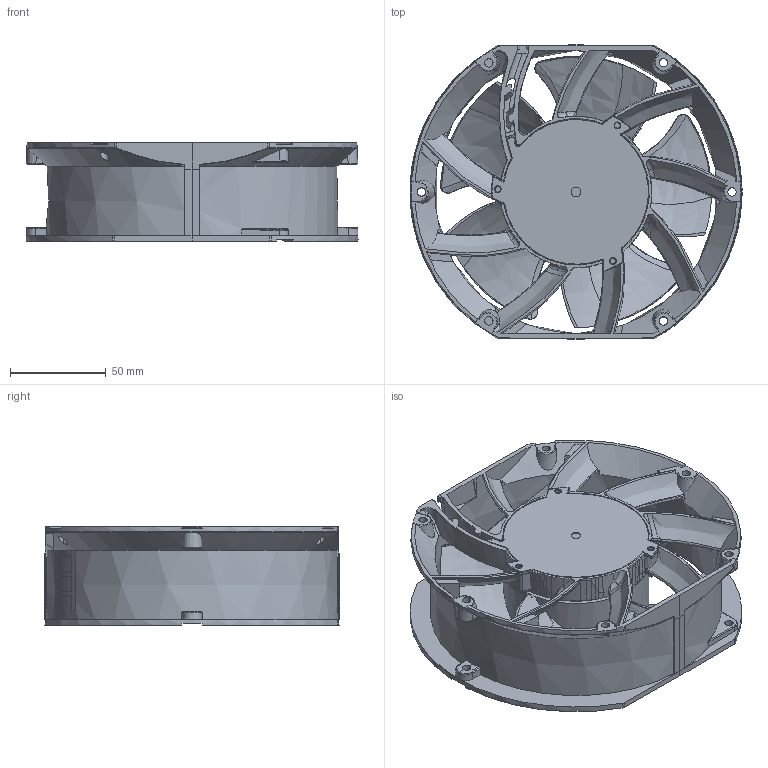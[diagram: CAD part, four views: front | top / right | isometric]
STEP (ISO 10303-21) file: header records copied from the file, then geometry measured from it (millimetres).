
FILE_DESCRIPTION(/* description */ (''),/* implementation_level */ '2;1');
FILE_NAME(/* name */ '150Y7+150G1+150K2.stp',/* time_stamp */ '2024-12-09T11:47:26+08:00',/* author */ (''),/* organization */ (''),/* preprocessor_version */ 'ST-DEVELOPER v16.7',/* originating_system */ 'SIEMENS PLM Software NX 12.0',/* authorisation */ '');
FILE_SCHEMA (('AUTOMOTIVE_DESIGN { 1 0 10303 214 3 1 1 1 }'));
Length unit declared in the file: millimetre
Products named in the file (1): Admi130030107adx
Bounding box: 173.78 x 153.9 x 51.6 mm (x, y, z)
Volume: 64311.7 mm3; surface area: 162685.5 mm2
Topology: 3 solids, 4 shells, 890 faces, 2675 edges, 1787 vertices
Faces by surface type: cylinder 258, plane 229, bspline 206, cone 110, extrusion 40, torus 39, revolution 5, sphere 3
Full cylindrical faces by diameter (mm): 3.006 x1, 3.015 x3, 4.409 x4, 5 x1, 10.02 x1, 13.132 x1, 57.395 x1, 72.014 x1
Entity records: 61180 total; most frequent: CARTESIAN_POINT 39332, ORIENTED_EDGE 5304, DIRECTION 3141, EDGE_CURVE 2652, VERTEX_POINT 1801, B_SPLINE_CURVE_WITH_KNOTS 1544, AXIS2_PLACEMENT_3D 1321, EDGE_LOOP 967
